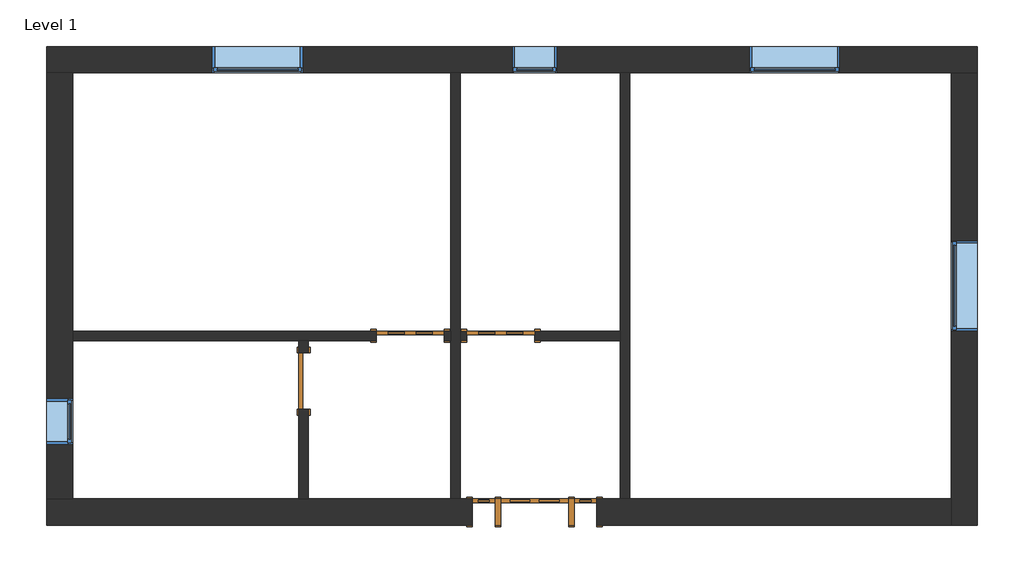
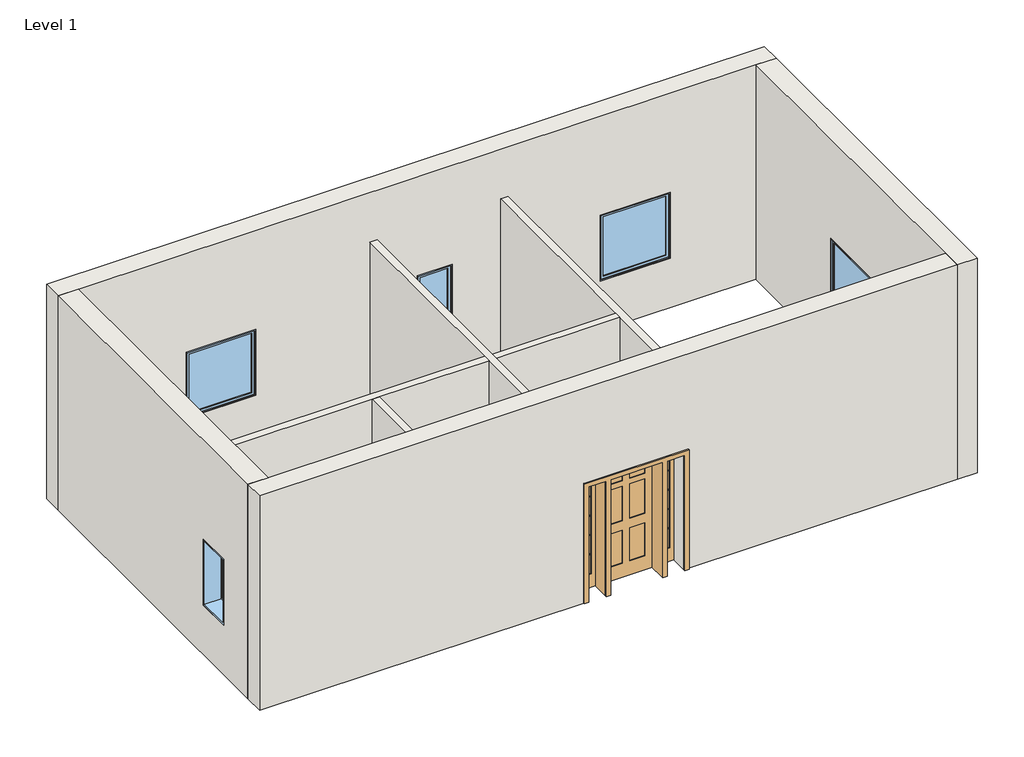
# One storey: 9 walls, 5 windows, 4 doors.
"""IFC4 building model written with IfcOpenShell, lengths in millimetres."""

from ifc_helpers import new_model, si_unit, frame, origin, place, context, project, spatial, polyline, outline, extrude, faceted_brep, transform, mapped, element, save
from components import door_829da954, door_2e3b4da2, door_4d6c7550, door_dba5aa2e, window_60baf983, window_6eb97611

model = new_model("IFC4")

# Units and contexts
model_context = context("Model", 3, world=origin())
ifc_project = project(units=[si_unit("LENGTHUNIT", "METRE", prefix="MILLI")], contexts=[model_context])

# Site, building, storey
site = spatial("IfcSite", under=ifc_project)
building = spatial("IfcBuilding", under=site)
storey = spatial("IfcBuildingStorey", under=building, Name="Level 1", Elevation=0.0)

# Doors
placement = place(None, origin())
door_shape = door_829da954(model_context)
element("IfcDoor", 1, ObjectType="Single-Decorative 2 : 36\" x 84\"", at=placement, inside=storey, context=model_context, shape_type="MappedRepresentation", body=[
    mapped(door_shape, transform((-5449.8589563, 6723.5441867, 0.0), x_axis=(-1.0, 0.0, 0.0), y_axis=(0.0, -1.0, 0.0), z_axis=(0.0, 0.0, 1.0))),
])
door_2_shape = door_2e3b4da2(model_context)
element("IfcDoor", 2, ObjectType="Single-Decorative 2 : 36\" x 84\"", at=placement, inside=storey, context=model_context, shape_type="MappedRepresentation", body=[
    mapped(door_2_shape, transform((-6669.0589563, 6723.5441867, 0.0), x_axis=(1.0, 0.0, 0.0), y_axis=(0.0, 1.0, 0.0), z_axis=(0.0, 0.0, 1.0))),
])
door_3_shape = door_4d6c7550(model_context)
element("IfcDoor", 3, ObjectType="Single-Flush : 30\" x 84\"", at=placement, inside=storey, context=model_context, shape_type="MappedRepresentation", body=[
    mapped(door_3_shape, transform((-8105.7464563, 6113.9441867, 0.0), x_axis=(0.0, 1.0, 0.0), y_axis=(-1.0, 0.0, 0.0), z_axis=(0.0, 0.0, 1.0))),
])
door_4_shape = door_dba5aa2e(model_context)
element("IfcDoor", 4, ObjectType="Single-Raised Panel with Sidelights : 36\" x 84\"", at=placement, inside=storey, context=model_context, shape_type="MappedRepresentation", body=[
    mapped(door_4_shape, transform((-4992.6589563, 4350.2316867, 0.0), x_axis=(-1.0, 0.0, 0.0), y_axis=(0.0, -1.0, 0.0), z_axis=(0.0, 0.0, 1.0))),
])

# Walls
element("IfcWall", 5, ObjectType="Exterior - Brick on Mtl. Stud", at=placement, inside=storey, context=model_context, shape_type="Brep", body=[
    faceted_brep([(974.7535437, 10270.0191867, 0.0), (622.3285437, 10270.0191867, 0.0), (-3709.9589563, 10270.0191867, 0.0), (-3836.9589563, 10270.0191867, 0.0), (-5995.9589563, 10270.0191867, 0.0), (-6122.9589563, 10270.0191867, 0.0), (-11217.2464563, 10270.0191867, 0.0), (-11569.6714563, 10270.0191867, 0.0), (-11569.6714563, 10622.4441867, 0.0), (974.7535437, 10622.4441867, 0.0), (-11569.6714563, 10270.0191867, 3962.4), (-11217.2464563, 10270.0191867, 3962.4), (622.3285437, 10270.0191867, 3962.4), (974.7535437, 10270.0191867, 3962.4), (974.7535437, 10622.4441867, 3962.4), (-11569.6714563, 10622.4441867, 3962.4), (-2097.0589563, 10270.0191867, 2133.6), (-877.8589563, 10270.0191867, 2133.6), (-877.8589563, 10270.0191867, 914.4), (-2097.0589563, 10270.0191867, 914.4), (-9336.0589563, 10270.0191867, 2133.6), (-8116.8589563, 10270.0191867, 2133.6), (-8116.8589563, 10270.0191867, 914.4), (-9336.0589563, 10270.0191867, 914.4), (-5297.4589563, 10270.0191867, 2133.6), (-4687.8589563, 10270.0191867, 2133.6), (-4687.8589563, 10270.0191867, 914.4), (-5297.4589563, 10270.0191867, 914.4), (-2097.0589563, 10622.4441867, 2133.6), (-2097.0589563, 10622.4441867, 914.4), (-877.8589563, 10622.4441867, 914.4), (-877.8589563, 10622.4441867, 2133.6), (-9336.0589563, 10622.4441867, 2133.6), (-9336.0589563, 10622.4441867, 914.4), (-8116.8589563, 10622.4441867, 914.4), (-8116.8589563, 10622.4441867, 2133.6), (-5297.4589563, 10622.4441867, 2133.6), (-5297.4589563, 10622.4441867, 914.4), (-4687.8589563, 10622.4441867, 914.4), (-4687.8589563, 10622.4441867, 2133.6)], [[[0, 1, 2, 3, 4, 5, 6, 7, 8, 9]], [[10, 11, 12, 13, 14, 15]], [[7, 6, 5, 4, 3, 2, 1, 0, 13, 12, 11, 10], [16, 17, 18, 19], [20, 21, 22, 23], [24, 25, 26, 27]], [[8, 15, 14, 9], [28, 29, 30, 31], [32, 33, 34, 35], [36, 37, 38, 39]], [[13, 0, 9, 14]], [[7, 10, 15, 8]], [[29, 28, 16, 19]], [[30, 29, 19, 18]], [[31, 30, 18, 17]], [[28, 31, 17, 16]], [[33, 32, 20, 23]], [[34, 33, 23, 22]], [[35, 34, 22, 21]], [[32, 35, 21, 20]], [[37, 36, 24, 27]], [[38, 37, 27, 26]], [[39, 38, 26, 25]], [[36, 39, 25, 24]]]),
])
element("IfcWall", 6, ObjectType="Exterior - Brick on Mtl. Stud", at=placement, inside=storey, context=model_context, shape_type="Brep", body=[
    faceted_brep([(622.3285437, 4174.0191867, 0.0), (622.3285437, 4526.4441867, 0.0), (622.3285437, 10270.0191867, 0.0), (974.7535437, 10270.0191867, 0.0), (974.7535437, 4174.0191867, 0.0), (622.3285437, 10270.0191867, 3962.4), (622.3285437, 4526.4441867, 3962.4), (622.3285437, 4174.0191867, 3962.4), (974.7535437, 4174.0191867, 3962.4), (974.7535437, 10270.0191867, 3962.4), (622.3285437, 8007.8316867, 2133.6), (622.3285437, 6788.6316867, 2133.6), (622.3285437, 6788.6316867, 914.4), (622.3285437, 8007.8316867, 914.4), (974.7535437, 8007.8316867, 2133.6), (974.7535437, 8007.8316867, 914.4), (974.7535437, 6788.6316867, 914.4), (974.7535437, 6788.6316867, 2133.6)], [[[0, 1, 2, 3, 4]], [[5, 6, 7, 8, 9]], [[2, 1, 0, 7, 6, 5], [10, 11, 12, 13]], [[3, 9, 8, 4], [14, 15, 16, 17]], [[2, 5, 9, 3]], [[7, 0, 4, 8]], [[15, 14, 10, 13]], [[16, 15, 13, 12]], [[17, 16, 12, 11]], [[14, 17, 11, 10]]]),
])
element("IfcWall", 7, ObjectType="Exterior - Brick on Mtl. Stud", at=placement, inside=storey, context=model_context, shape_type="Brep", body=[
    faceted_brep([(-11569.6714563, 4526.4441867, 0.0), (-11217.2464563, 4526.4441867, 0.0), (-8169.2464563, 4526.4441867, 0.0), (-8042.2464563, 4526.4441867, 0.0), (-6122.9589563, 4526.4441867, 0.0), (-5995.9589563, 4526.4441867, 0.0), (-5830.8589563, 4526.4441867, 0.0), (-5830.8589563, 4174.0191867, 0.0), (-11569.6714563, 4174.0191867, 0.0), (-4154.4589563, 4526.4441867, 0.0), (-3836.9589563, 4526.4441867, 0.0), (-3709.9589563, 4526.4441867, 0.0), (622.3285437, 4526.4441867, 0.0), (622.3285437, 4174.0191867, 0.0), (-4154.4589563, 4174.0191867, 0.0), (622.3285437, 4526.4441867, 3962.4), (-11217.2464563, 4526.4441867, 3962.4), (-11569.6714563, 4526.4441867, 3962.4), (-11569.6714563, 4174.0191867, 3962.4), (622.3285437, 4174.0191867, 3962.4), (-5830.8589563, 4526.4441867, 2133.6), (-4154.4589563, 4526.4441867, 2133.6), (-5830.8589563, 4174.0191867, 2133.6), (-4154.4589563, 4174.0191867, 2133.6)], [[[0, 1, 2, 3, 4, 5, 6, 7, 8]], [[9, 10, 11, 12, 13, 14]], [[15, 16, 17, 18, 19]], [[20, 6, 5, 4, 3, 2, 1, 0, 17, 16, 15, 12, 11, 10, 9, 21]], [[8, 7, 22, 23, 14, 13, 19, 18]], [[12, 15, 19, 13]], [[17, 0, 8, 18]], [[22, 7, 6, 20]], [[23, 22, 20, 21]], [[14, 23, 21, 9]]]),
])
element("IfcWall", 8, ObjectType="Exterior - Brick on Mtl. Stud", at=placement, inside=storey, context=model_context, shape_type="Brep", body=[
    faceted_brep([(-11217.2464563, 10270.0191867, 0.0), (-11217.2464563, 6787.0441867, 0.0), (-11217.2464563, 6660.0441867, 0.0), (-11217.2464563, 4526.4441867, 0.0), (-11569.6714563, 4526.4441867, 0.0), (-11569.6714563, 10270.0191867, 0.0), (-11217.2464563, 4526.4441867, 3962.4), (-11217.2464563, 10270.0191867, 3962.4), (-11569.6714563, 10270.0191867, 3962.4), (-11569.6714563, 4526.4441867, 3962.4), (-11217.2464563, 5264.6316867, 2133.6), (-11217.2464563, 5874.2316867, 2133.6), (-11217.2464563, 5874.2316867, 914.4), (-11217.2464563, 5264.6316867, 914.4), (-11569.6714563, 5264.6316867, 2133.6), (-11569.6714563, 5264.6316867, 914.4), (-11569.6714563, 5874.2316867, 914.4), (-11569.6714563, 5874.2316867, 2133.6)], [[[0, 1, 2, 3, 4, 5]], [[6, 7, 8, 9]], [[3, 2, 1, 0, 7, 6], [10, 11, 12, 13]], [[4, 9, 8, 5], [14, 15, 16, 17]], [[3, 6, 9, 4]], [[7, 0, 5, 8]], [[15, 14, 10, 13]], [[16, 15, 13, 12]], [[17, 16, 12, 11]], [[14, 17, 11, 10]]]),
])
element("IfcWall", 9, ObjectType="Interior - 5\" Partition (2-hr)", at=placement, inside=storey, context=model_context, shape_type="Brep", body=[
    faceted_brep([(-3836.9589563, 10270.0191867, 0.0), (-3836.9589563, 6787.0441867, 0.0), (-3836.9589563, 6660.0441867, 0.0), (-3836.9589563, 4526.4441867, 0.0), (-3836.9589563, 4526.4441867, 3048.0), (-3836.9589563, 6660.0441867, 3048.0), (-3836.9589563, 6787.0441867, 3048.0), (-3836.9589563, 10270.0191867, 3048.0), (-3709.9589563, 10270.0191867, 0.0), (-3709.9589563, 10270.0191867, 3048.0), (-3709.9589563, 4526.4441867, 3048.0), (-3709.9589563, 4526.4441867, 0.0)], [[[0, 1, 2, 3, 4, 5, 6, 7]], [[8, 9, 10, 11]], [[3, 2, 1, 0, 8, 11]], [[7, 6, 5, 4, 10, 9]], [[0, 7, 9, 8]], [[4, 3, 11, 10]]]),
])
element("IfcWall", 10, ObjectType="Interior - 5\" Partition (2-hr)", at=placement, inside=storey, context=model_context, shape_type="Brep", body=[
    faceted_brep([(-6122.9589563, 10270.0191867, 0.0), (-6122.9589563, 6787.0441867, 0.0), (-6122.9589563, 6660.0441867, 0.0), (-6122.9589563, 4526.4441867, 0.0), (-6122.9589563, 4526.4441867, 3048.0), (-6122.9589563, 6660.0441867, 3048.0), (-6122.9589563, 6787.0441867, 3048.0), (-6122.9589563, 10270.0191867, 3048.0), (-5995.9589563, 10270.0191867, 0.0), (-5995.9589563, 10270.0191867, 3048.0), (-5995.9589563, 6787.0441867, 3048.0), (-5995.9589563, 6660.0441867, 3048.0), (-5995.9589563, 4526.4441867, 3048.0), (-5995.9589563, 4526.4441867, 0.0), (-5995.9589563, 6660.0441867, 0.0), (-5995.9589563, 6787.0441867, 0.0)], [[[0, 1, 2, 3, 4, 5, 6, 7]], [[8, 9, 10, 11, 12, 13, 14, 15]], [[3, 2, 1, 0, 8, 15, 14, 13]], [[7, 6, 5, 4, 12, 11, 10, 9]], [[0, 7, 9, 8]], [[4, 3, 13, 12]]]),
])
element("IfcWall", 11, ObjectType="Interior - 5\" Partition (2-hr)", at=placement, inside=storey, context=model_context, shape_type="Brep", body=[
    faceted_brep([(-6122.9589563, 6660.0441867, 0.0), (-6211.8589563, 6660.0441867, 0.0), (-6211.8589563, 6787.0441867, 0.0), (-6122.9589563, 6787.0441867, 0.0), (-7126.2589563, 6660.0441867, 0.0), (-8042.2464563, 6660.0441867, 0.0), (-8169.2464563, 6660.0441867, 0.0), (-11217.2464563, 6660.0441867, 0.0), (-11217.2464563, 6787.0441867, 0.0), (-7126.2589563, 6787.0441867, 0.0), (-11217.2464563, 6660.0441867, 3048.0), (-8169.2464563, 6660.0441867, 3048.0), (-8042.2464563, 6660.0441867, 3048.0), (-6122.9589563, 6660.0441867, 3048.0), (-6122.9589563, 6787.0441867, 3048.0), (-11217.2464563, 6787.0441867, 3048.0), (-6211.8589563, 6660.0441867, 2133.6), (-7126.2589563, 6660.0441867, 2133.6), (-6211.8589563, 6787.0441867, 2133.6), (-7126.2589563, 6787.0441867, 2133.6)], [[[0, 1, 2, 3]], [[4, 5, 6, 7, 8, 9]], [[10, 11, 12, 13, 14, 15]], [[16, 1, 0, 13, 12, 11, 10, 7, 6, 5, 4, 17]], [[3, 2, 18, 19, 9, 8, 15, 14]], [[7, 10, 15, 8]], [[13, 0, 3, 14]], [[18, 2, 1, 16]], [[19, 18, 16, 17]], [[9, 19, 17, 4]]]),
])
element("IfcWall", 12, ObjectType="Interior - 5\" Partition (2-hr)", at=placement, inside=storey, context=model_context, shape_type="SweptSolid", body=[
    extrude(outline(polyline([(6660.0441867, 0.0), (6494.9441867, 0.0), (6494.9441867, 2133.6), (5732.9441867, 2133.6), (5732.9441867, 0.0), (4526.4441867, 0.0), (4526.4441867, 3048.0), (6660.0441867, 3048.0), (6660.0441867, 0.0)])), frame((-8169.2464563, 0.0, 0.0), z_axis=(1.0, 0.0, 0.0), x_axis=(0.0, 1.0, 0.0)), (0.0, 0.0, 1.0), 127.0),
])
element("IfcWall", 13, ObjectType="Interior - 5\" Partition (2-hr)", at=placement, inside=storey, context=model_context, shape_type="SweptSolid", body=[
    extrude(outline(polyline([(0.0, -5995.9589563), (0.0, -5907.0589563), (2133.6, -5907.0589563), (2133.6, -4992.6589563), (0.0, -4992.6589563), (0.0, -3836.9589563), (3048.0, -3836.9589563), (3048.0, -5995.9589563), (0.0, -5995.9589563)])), frame((0.0, 6660.0441867, 0.0), z_axis=(0.0, 1.0, 0.0), x_axis=(0.0, 0.0, 1.0)), (0.0, 0.0, 1.0), 127.0),
])

# Windows
window_shape = window_60baf983(model_context)
element("IfcWindow", 14, ObjectType="Fixed : 24\" x 48\"", at=placement, inside=storey, context=model_context, shape_type="MappedRepresentation", body=[
    mapped(window_shape, transform((-5030.7589563, 10446.2316867, 0.0), x_axis=(-1.0, 0.0, 0.0), y_axis=(0.0, -1.0, 0.0), z_axis=(0.0, 0.0, 1.0))),
])
element("IfcWindow", 15, ObjectType="Fixed : 24\" x 48\"", at=placement, inside=storey, context=model_context, shape_type="MappedRepresentation", body=[
    mapped(window_shape, transform((-11393.4589563, 5531.3316867, 0.0), x_axis=(0.0, -1.0, 0.0), y_axis=(1.0, 0.0, 0.0), z_axis=(0.0, 0.0, 1.0))),
])
window_2_shape = window_6eb97611(model_context)
element("IfcWindow", 16, ObjectType="Fixed : 48\" x 48\"", at=placement, inside=storey, context=model_context, shape_type="MappedRepresentation", body=[
    mapped(window_2_shape, transform((-8764.5589563, 10446.2316867, 0.0), x_axis=(-1.0, 0.0, 0.0), y_axis=(0.0, -1.0, 0.0), z_axis=(0.0, 0.0, 1.0))),
])
element("IfcWindow", 17, ObjectType="Fixed : 48\" x 48\"", at=placement, inside=storey, context=model_context, shape_type="MappedRepresentation", body=[
    mapped(window_2_shape, transform((-1525.5589563, 10446.2316867, 0.0), x_axis=(-1.0, 0.0, 0.0), y_axis=(0.0, -1.0, 0.0), z_axis=(0.0, 0.0, 1.0))),
])
element("IfcWindow", 18, ObjectType="Fixed : 48\" x 48\"", at=placement, inside=storey, context=model_context, shape_type="MappedRepresentation", body=[
    mapped(window_2_shape, transform((798.5410437, 7436.3316867, 0.0), x_axis=(0.0, 1.0, 0.0), y_axis=(-1.0, 0.0, 0.0), z_axis=(0.0, 0.0, 1.0))),
])

save(model, "model.ifc")
